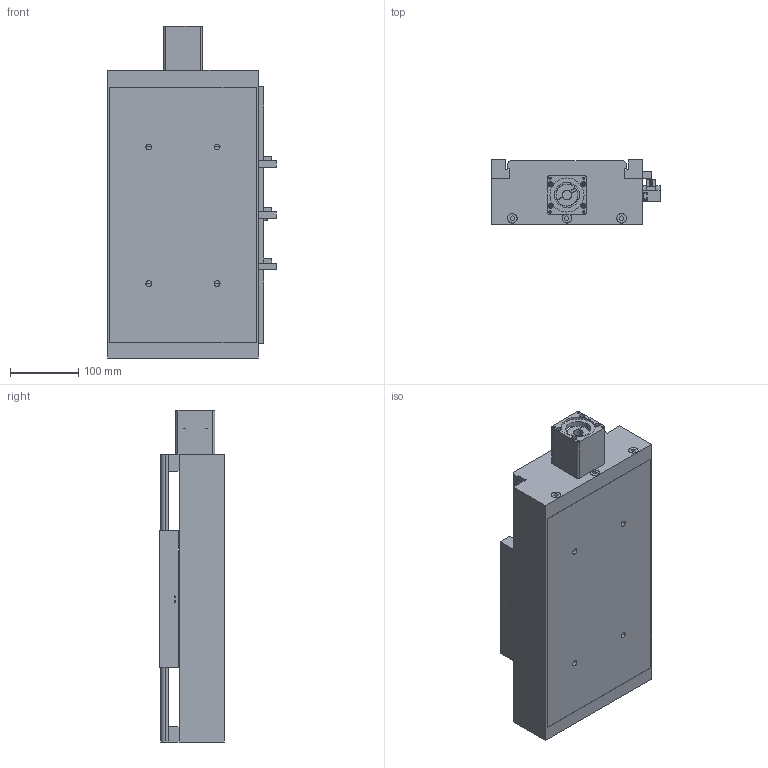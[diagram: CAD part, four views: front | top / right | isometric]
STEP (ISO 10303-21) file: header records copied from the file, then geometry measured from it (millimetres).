
FILE_DESCRIPTION((''),'2;1');
FILE_NAME('E:\libraries\UIA actuator library 2016\standard actuator\UIA220R20NDC\UIA220R20NDC ball screw 20\UIA220R20NDC-_ _ _-R20_ _ stp file, 01May16\UIA220R20NDC-150-R20_ _-M60-P13-C10-S.stp','2016-04-29T15:06:49',('h029'),(''),'Autodesk Inventor 11','Autodesk Inventor 11','');
FILE_SCHEMA(('AUTOMOTIVE_DESIGN { 1 0 10303 214 1 1 1 1 }'));
Length unit declared in the file: millimetre
Products named in the file (10): UIA220R20NDC-150-R20_ _; UIA220R20NDC-body; 41-100 0010 CARRIAGE; sensor rail; Sensor Switch; motor mount M60; SOH-32C; SOH-32C-3; SOH-32C-1; SOH-32C-2
Assembly tree (9 placements, depth 3):
  UIA220R20NDC-150-R20_ _
    UIA220R20NDC-body
    41-100 0010 CARRIAGE
    sensor rail
    Sensor Switch
    motor mount M60
    SOH-32C
      SOH-32C-3
      SOH-32C-1
      SOH-32C-2
Bounding box: 246.5 x 96 x 486 mm (x, y, z)
Volume: 3615461.4 mm3; surface area: 754328.1 mm2
Topology: 8 solids, 8 shells, 500 faces, 1342 edges, 882 vertices
Faces by surface type: plane 341, bspline 109, cylinder 48, cone 2
Full cylindrical faces by diameter (mm): 3.242 x2, 4.5 x2, 7 x4, 7.5 x2, 12 x2, 13.8 x3, 14 x4, 15 x1, 32 x3, 37 x1, 46.9 x1, 47.1 x1
Entity records: 16326 total; most frequent: CARTESIAN_POINT 4540, ORIENTED_EDGE 2298, DIRECTION 2249, EDGE_CURVE 1149, VECTOR 849, LINE 849, VERTEX_POINT 808, EDGE_LOOP 711
